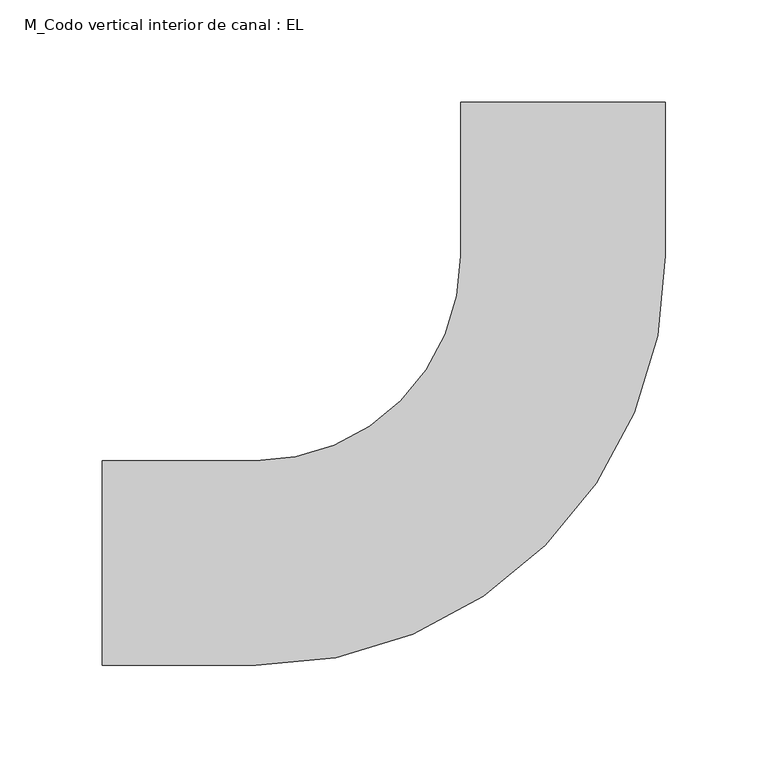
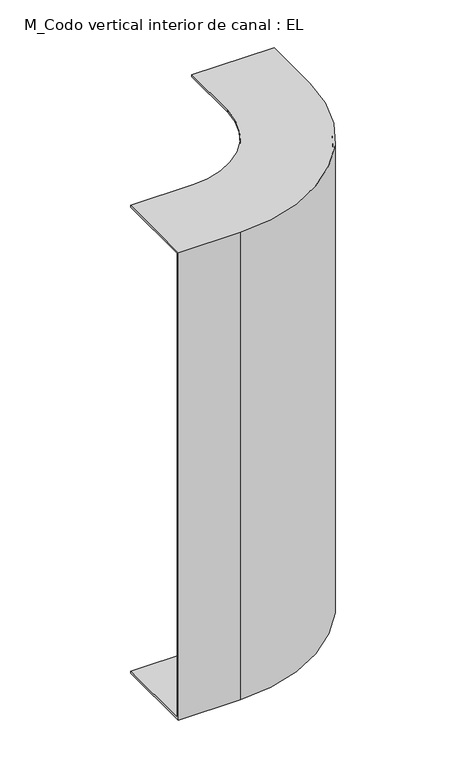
"""IFC4 building model written with IfcOpenShell, lengths in millimetres: cable carrier fitting geometry, M_Codo vertical interior de canal : EL."""

from ifc_helpers import new_model, si_unit, frame, origin, place, context, project, spatial, polyline, circle_curve, source, transform, mapped, element, save
from ifc_brep_helpers import plane_surface, cylinder_surface, revolved_surface, advanced_brep


def m_codo_vertical_interior_de_canal_el_ae449671(model_context):
    return source(origin(), model_context, "Body", "AdvancedBrep", [
        advanced_brep(
        [(-225.0, 50.0, 300.0), (-225.0, 50.0, 297.46), (-225.0, -47.46, 297.46), (-225.0, -47.46, -297.46), (-225.0, 50.0, -297.46), (-225.0, 50.0, -300.0), (-225.0, -50.0, -300.0), (-225.0, -50.0, 300.0), (-50.0, 225.0, 300.0), (50.0, 225.0, 300.0), (50.0, 225.0, -300.0), (-50.0, 225.0, -300.0), (-50.0, 225.0, -297.46), (47.46, 225.0, -297.46), (47.46, 225.0, 297.46), (-50.0, 225.0, 297.46), (-150.0, -50.0, 300.0), (50.0, 150.0, 300.0), (-50.0, 150.0, 300.0), (-150.0, 50.0, 300.0), (-150.0, -50.0, -300.0), (-150.0, 50.0, -300.0), (-50.0, 150.0, -300.0), (50.0, 150.0, -300.0), (-150.0, 50.0, -297.46), (-150.0, -47.46, -297.46), (47.46, 150.0, -297.46), (-50.0, 150.0, -297.46), (-150.0, -47.46, 297.46), (-150.0, 50.0, 297.46), (-50.0, 150.0, 297.46), (47.46, 150.0, 297.46)],
        [
            (0, 1),
            (1, 2),
            (2, 3),
            (3, 4),
            (4, 5),
            (5, 6),
            (6, 7),
            (7, 0),
            (8, 9),
            (9, 10),
            (10, 11),
            (11, 12),
            (12, 13),
            (13, 14),
            (14, 15),
            (15, 8),
            (7, 16),
            (16, 17, circle_curve(frame((-150.0, 150.0, 300.0), z_axis=(0.0, 0.0, 1.0), x_axis=(0.0, -1.0, 0.0)), 200.0)),
            (17, 9),
            (8, 18),
            (18, 19, circle_curve(frame((-150.0, 150.0, 300.0), z_axis=(0.0, 0.0, -1.0), x_axis=(0.0, -1.0, 0.0)), 100.0)),
            (19, 0),
            (6, 20),
            (20, 16),
            (5, 21),
            (21, 22, circle_curve(frame((-150.0, 150.0, -300.0), z_axis=(0.0, 0.0, 1.0), x_axis=(0.0, -1.0, 0.0)), 100.0)),
            (22, 11),
            (10, 23),
            (23, 20, circle_curve(frame((-150.0, 150.0, -300.0), z_axis=(0.0, 0.0, -1.0), x_axis=(0.0, -1.0, 0.0)), 200.0)),
            (4, 24),
            (24, 21),
            (3, 25),
            (25, 26, circle_curve(frame((-150.0, 150.0, -297.46), z_axis=(0.0, 0.0, 1.0), x_axis=(0.0, -1.0, 0.0)), 197.46)),
            (26, 13),
            (12, 27),
            (27, 24, circle_curve(frame((-150.0, 150.0, -297.46), z_axis=(0.0, 0.0, -1.0), x_axis=(0.0, -1.0, 0.0)), 100.0)),
            (2, 28),
            (28, 25),
            (1, 29),
            (29, 30, circle_curve(frame((-150.0, 150.0, 297.46), z_axis=(0.0, 0.0, 1.0), x_axis=(0.0, -1.0, 0.0)), 100.0)),
            (30, 15),
            (14, 31),
            (31, 28, circle_curve(frame((-150.0, 150.0, 297.46), z_axis=(0.0, 0.0, -1.0), x_axis=(0.0, -1.0, 0.0)), 197.46)),
            (19, 29),
            (23, 17),
            (27, 22),
            (31, 26),
            (18, 30),
        ],
        [
            plane_surface(frame((-225.0, 0.0, 0.0), z_axis=(-1.0, 0.0, 0.0), x_axis=(0.0, 0.0, 1.0))),
            plane_surface(frame((0.0, 225.0, 0.0), z_axis=(0.0, 1.0, 0.0), x_axis=(0.0, 0.0, 1.0))),
            plane_surface(frame((-225.0, -50.0, 300.0), z_axis=(0.0, 0.0, 1.0), x_axis=(1.0, 0.0, 0.0))),
            plane_surface(frame((-225.0, -50.0, -300.0), z_axis=(0.0, -1.0, 0.0), x_axis=(1.0, 0.0, 0.0))),
            plane_surface(frame((-225.0, 50.0, -300.0), z_axis=(0.0, 0.0, -1.0), x_axis=(1.0, 0.0, 0.0))),
            plane_surface(frame((-225.0, 50.0, -297.46), z_axis=(0.0, 1.0, 0.0), x_axis=(1.0, 0.0, 0.0))),
            plane_surface(frame((-225.0, -47.46, -297.46), z_axis=(0.0, 0.0, 1.0), x_axis=(1.0, 0.0, 0.0))),
            plane_surface(frame((-225.0, -47.46, 297.46), z_axis=(0.0, 1.0, 0.0), x_axis=(1.0, 0.0, 0.0))),
            plane_surface(frame((-225.0, 50.0, 297.46), z_axis=(0.0, 0.0, -1.0), x_axis=(1.0, 0.0, 0.0))),
            plane_surface(frame((-225.0, 50.0, 300.0), z_axis=(0.0, 1.0, 0.0), x_axis=(1.0, 0.0, 0.0))),
            cylinder_surface(frame((-150.0, 150.0, 0.0), z_axis=(0.0, 0.0, 1.0), x_axis=(0.0, -1.0, 0.0)), 200.0),
            revolved_surface(polyline([(-150.0, 50.0, -297.46), (-150.0, 50.0, -300.0)]), (-150.0, 150.0, 0.0), (0.0, 0.0, 1.0)),
            revolved_surface(polyline([(-150.0, -47.46000000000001, 297.46), (-150.0, -47.46000000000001, -297.46)]), (-150.0, 150.0, 0.0), (0.0, 0.0, 1.0)),
            revolved_surface(polyline([(-150.0, 50.0, 300.0), (-150.0, 50.0, 297.46)]), (-150.0, 150.0, 0.0), (0.0, 0.0, 1.0)),
            plane_surface(frame((50.0, 150.0, -300.0), z_axis=(1.0, 0.0, 0.0), x_axis=(0.0, 1.0, 0.0))),
            plane_surface(frame((-50.0, 150.0, -297.46), z_axis=(-1.0, 0.0, 0.0), x_axis=(0.0, 1.0, 0.0))),
            plane_surface(frame((47.46, 150.0, 297.46), z_axis=(-1.0, 0.0, 0.0), x_axis=(0.0, 1.0, 0.0))),
            plane_surface(frame((-50.0, 150.0, 300.0), z_axis=(-1.0, 0.0, 0.0), x_axis=(0.0, 1.0, 0.0))),
        ],
        [
            (0, [[1, 2, 3, 4, 5, 6, 7, 8]]),
            (1, [[9, 10, 11, 12, 13, 14, 15, 16]]),
            (2, [[-8, 17, 18, 19, -9, 20, 21, 22]]),
            (3, [[-7, 23, 24, -17]]),
            (4, [[-6, 25, 26, 27, -11, 28, 29, -23]]),
            (5, [[-5, 30, 31, -25]]),
            (6, [[-4, 32, 33, 34, -13, 35, 36, -30]]),
            (7, [[-3, 37, 38, -32]]),
            (8, [[-2, 39, 40, 41, -15, 42, 43, -37]]),
            (9, [[-1, -22, 44, -39]]),
            (10, [[-18, -24, -29, 45]]),
            (11, [[-26, -31, -36, 46]]),
            (12, [[-33, -38, -43, 47]]),
            (13, [[-40, -44, -21, 48]]),
            (14, [[-45, -28, -10, -19]]),
            (15, [[-46, -35, -12, -27]]),
            (16, [[-47, -42, -14, -34]]),
            (17, [[-48, -20, -16, -41]]),
        ],
    ),
    ])


if __name__ == "__main__":
    model = new_model("IFC4")
    model_context = context("Model", 3, world=origin())
    ifc_project = project(units=[si_unit("LENGTHUNIT", "METRE", prefix="MILLI")], contexts=[model_context])
    site = spatial("IfcSite", under=ifc_project)
    building = spatial("IfcBuilding", under=site)
    placement = place(None, origin())
    m_codo_vertical_interior_de_canal_el_shape = m_codo_vertical_interior_de_canal_el_ae449671(model_context)
    element("IfcCableCarrierFitting", 1, ObjectType="M_Codo vertical interior de canal : EL", at=placement, inside=building, context=model_context, shape_type="MappedRepresentation", body=[
        mapped(m_codo_vertical_interior_de_canal_el_shape, transform((0.0, 0.0, 0.0), x_axis=(1.0, 0.0, 0.0), y_axis=(0.0, 1.0, 0.0), z_axis=(0.0, 0.0, 1.0))),
    ])
    save(model, "model.ifc")
